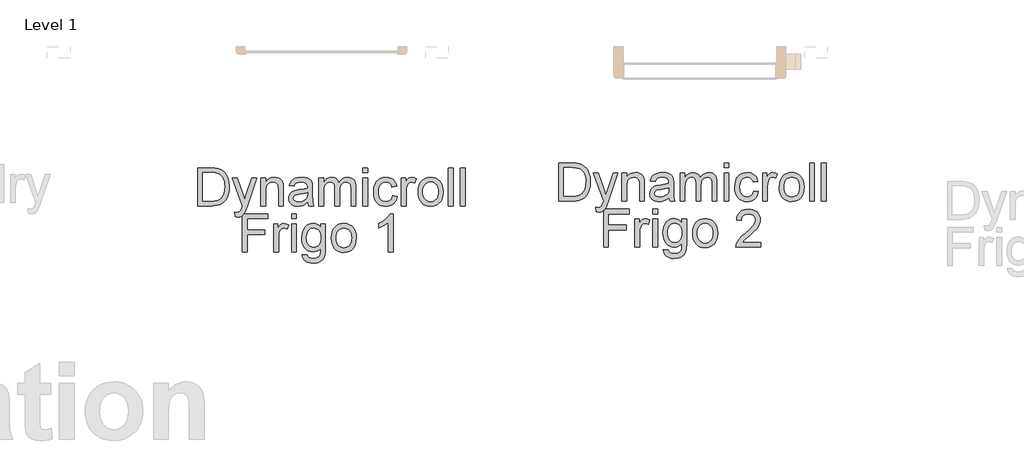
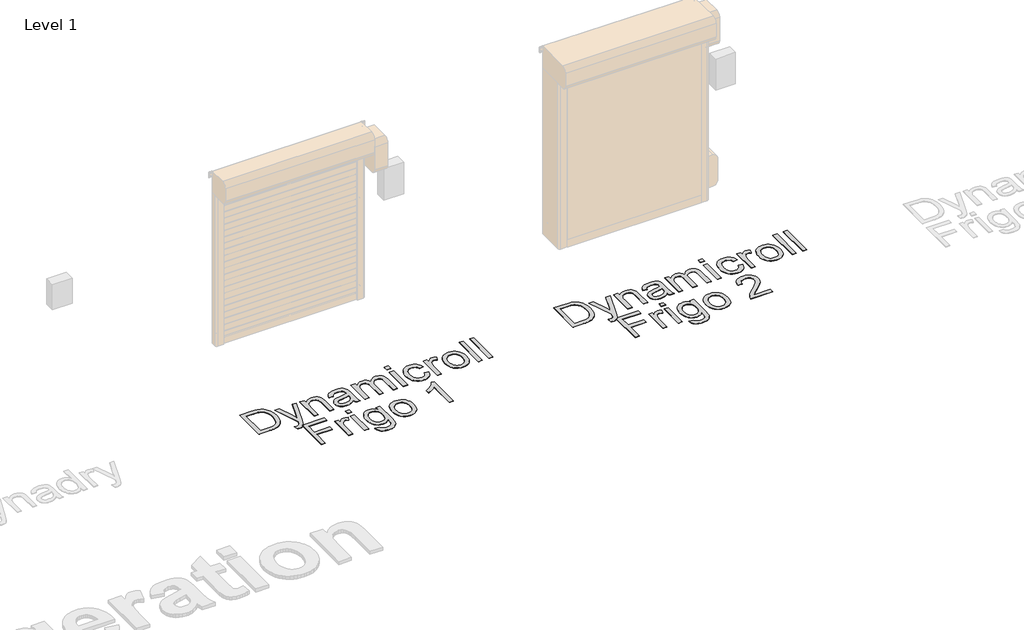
# One storey, part 4 of 17: 2 proxies.
"""IFC4 building model written with IfcOpenShell, lengths in millimetres."""

import ifcopenshell
import ifcopenshell.guid

model = None  # the IFC model being written
_history = None  # IfcOwnerHistory: only IFC2X3 demands one
_inside = {}  # id of a spatial element -> (the spatial element, [elements in it])
_under = {}  # id of a project, library or spatial element -> (it, [spatial elements below it])
_declared = {}  # id of a project -> (the project, [libraries it declares])
_typed = {}  # id of a type object -> (the type object, [elements of that type])
_made_of = {}  # id of a material, layer set ... -> (it, [elements and type objects made of it])


def new_model(schema):
    """Start an empty IFC model of exactly this schema.

    Asked for "IFC4X3", IfcOpenShell would pick the latest addendum, in which some entities
    have other attributes; the version numbers below select the first issue.
    IFC2X3 requires an IfcOwnerHistory on every rooted entity: one is made here for all.
    """
    global model, _history
    if schema == "IFC4X3":
        model = ifcopenshell.file(schema_version=(4, 3, 0, 0))
    else:
        model = ifcopenshell.file(schema=schema)
    _inside.clear()
    _under.clear()
    _declared.clear()
    _typed.clear()
    _made_of.clear()
    _history = None
    if model.schema == "IFC2X3":
        org = make("IfcOrganization", Name="unknown")
        user = make(
            "IfcPersonAndOrganization",
            ThePerson=make("IfcPerson", FamilyName="unknown"),
            TheOrganization=org,
        )
        app = make(
            "IfcApplication",
            ApplicationDeveloper=org,
            Version="unknown",
            ApplicationFullName="unknown",
            ApplicationIdentifier="unknown",
        )
        _history = make(
            "IfcOwnerHistory",
            OwningUser=user,
            OwningApplication=app,
            ChangeAction="ADDED",
            CreationDate=0,
        )
    return model


def make(cls, **values):
    """One entity of the class cls with the attributes given. An attribute that is None is left unset."""
    return model.create_entity(
        cls, **{name: value for name, value in values.items() if value is not None}
    )


def rooted(cls, **values):
    """An entity with a GlobalId (a new one), such as an element, a storey or a relation."""
    return make(cls, GlobalId=ifcopenshell.guid.new(), OwnerHistory=_history, **values)


def si_unit(unit_type, name, prefix=None):
    """IfcSIUnit, for example si_unit("LENGTHUNIT", "METRE", prefix="MILLI")."""
    return make("IfcSIUnit", UnitType=unit_type, Prefix=prefix, Name=name)


def assignment(units):
    """IfcUnitAssignment: the units of a project."""
    return None if units is None else make("IfcUnitAssignment", Units=units)


def point(xyz):
    """IfcCartesianPoint."""
    return None if xyz is None else make("IfcCartesianPoint", Coordinates=xyz)


def direction(xyz):
    """IfcDirection."""
    return None if xyz is None else make("IfcDirection", DirectionRatios=xyz)


def frame(location, z_axis=None, x_axis=None):
    """IfcAxis2Placement3D, a coordinate frame: its origin and axes. An axis left out is left unset."""
    return make(
        "IfcAxis2Placement3D",
        Location=point(location),
        Axis=direction(z_axis),
        RefDirection=direction(x_axis),
    )


def origin():
    """The frame at (0, 0, 0) with its axes left unset."""
    return frame((0.0, 0.0, 0.0))


def origin_with_axes():
    """The frame at (0, 0, 0) with the z axis (0, 0, 1) and the x axis (1, 0, 0) written out."""
    return frame((0.0, 0.0, 0.0), z_axis=(0.0, 0.0, 1.0), x_axis=(1.0, 0.0, 0.0))


def place(relative_to, where):
    """IfcLocalPlacement: puts the frame where relative to a parent placement (None: the world)."""
    return make(
        "IfcLocalPlacement", PlacementRelTo=relative_to, RelativePlacement=where
    )


def context(
    kind, dimensions, precision=None, world=None, true_north=None, identifier=None
):
    """IfcGeometricRepresentationContext, for example the 3D "Model" context."""
    return make(
        "IfcGeometricRepresentationContext",
        ContextIdentifier=identifier,
        ContextType=kind,
        CoordinateSpaceDimension=dimensions,
        Precision=precision,
        WorldCoordinateSystem=world,
        TrueNorth=true_north,
    )


def project(units=None, contexts=None):
    """IfcProject with its units and contexts."""
    return rooted(
        "IfcProject",
        Name="project",
        RepresentationContexts=contexts,
        UnitsInContext=assignment(units),
    )


def spatial(cls, under=None, at=None, **own):
    """A site, building, storey or space (cls), placed at a placement, below another one or the project."""
    s = rooted(cls, ObjectPlacement=at, **own)
    if under is not None:
        _under.setdefault(under.id(), (under, []))[1].append(s)
    return s


def polyline(points):
    """IfcPolyline through the points."""
    return make("IfcPolyline", Points=[point(p) for p in points])


def outline(outer, holes=None, kind="AREA"):
    """IfcArbitraryClosedProfileDef: a profile drawn as a closed curve; with holes, ...WithVoids."""
    if holes is None:
        return make("IfcArbitraryClosedProfileDef", ProfileType=kind, OuterCurve=outer)
    return make(
        "IfcArbitraryProfileDefWithVoids",
        ProfileType=kind,
        OuterCurve=outer,
        InnerCurves=holes,
    )


def extrude(swept, where, along, depth):
    """IfcExtrudedAreaSolid: the profile swept, set in the frame where, extruded along a direction by depth."""
    return make(
        "IfcExtrudedAreaSolid",
        SweptArea=swept,
        Position=where,
        ExtrudedDirection=direction(along),
        Depth=depth,
    )


def shape(context_of_items, identifier, shape_type, items):
    """IfcShapeRepresentation: the items that make up one representation, for example the "Body"."""
    return make(
        "IfcShapeRepresentation",
        ContextOfItems=context_of_items,
        RepresentationIdentifier=identifier,
        RepresentationType=shape_type,
        Items=items,
    )


def made_of(thing, what):
    """Note that an element or type object is made of a material, layer set ...; save() writes the relation."""
    if what is not None:
        _made_of.setdefault(what.id(), (what, []))[1].append(thing)
    return thing


def element(
    cls,
    number,
    at=None,
    inside=None,
    cuts=None,
    type_object=None,
    material=None,
    context=None,
    identifier="Body",
    shape_type=None,
    held_by="IfcProductDefinitionShape",
    body=None,
    shapes=None,
    **own,
):
    """One element of the class cls, such as IfcWall. Its Tag is "e" and its number.

    at: its placement. inside: the storey or other place that contains it. cuts: it is an
    opening in that element (IfcRelVoidsElement). A single representation is given by context,
    identifier, shape_type and body (its items); several are given by shapes. held_by: the class
    of the entity that holds the representations. save() writes the other relations.
    """
    e = rooted(cls, Tag="e%d" % number, ObjectPlacement=at, **own)
    if body is not None:
        shapes = [shape(context, identifier, shape_type, body)]
    if shapes is not None:
        e.Representation = make(held_by, Representations=shapes)
    if inside is not None:
        _inside.setdefault(inside.id(), (inside, []))[1].append(e)
    if cuts is not None:
        rooted(
            "IfcRelVoidsElement", RelatingBuildingElement=cuts, RelatedOpeningElement=e
        )
    if type_object is not None:
        _typed.setdefault(type_object.id(), (type_object, []))[1].append(e)
    return made_of(e, material)


def aggregate(whole, parts):
    """IfcRelAggregates: a whole, such as a stair, and the parts it consists of."""
    return rooted("IfcRelAggregates", RelatingObject=whole, RelatedObjects=parts)


def save(model, path):
    """Write the relations noted so far, then the file.

    IfcRelAggregates (storeys below a building ...), IfcRelContainedInSpatialStructure (elements
    in a storey), IfcRelDefinesByType, IfcRelAssociatesMaterial and IfcRelDeclares: one each for
    every whole, place, type object, material and project.
    """
    for whole, parts in _under.values():
        aggregate(whole, parts)
    for where, things in _inside.values():
        rooted(
            "IfcRelContainedInSpatialStructure",
            RelatedElements=things,
            RelatingStructure=where,
        )
    for kind, things in _typed.values():
        rooted("IfcRelDefinesByType", RelatedObjects=things, RelatingType=kind)
    for what, things in _made_of.values():
        rooted("IfcRelAssociatesMaterial", RelatedObjects=things, RelatingMaterial=what)
    for by, libraries in _declared.values():
        rooted("IfcRelDeclares", RelatingContext=by, RelatedDefinitions=libraries)
    model.write(path)


model = new_model("IFC4")

# Units and contexts
model_context = context("Model", 3, world=origin())
ifc_project = project(units=[si_unit("LENGTHUNIT", "METRE", prefix="MILLI")], contexts=[model_context])

# Site, building, storey
site = spatial("IfcSite", under=ifc_project)
building = spatial("IfcBuilding", under=site)
storey = spatial("IfcBuildingStorey", under=building, Name="Level 1", Elevation=0.0)

# Proxies
placement = place(None, origin())
element("IfcBuildingElementProxy", 1, Name="500mm", ObjectType="500mm", at=placement, inside=storey, context=model_context, shape_type="SweptSolid", body=[
    extrude(outline(polyline([(14861.4528433, 7547.2366873), (14861.4528433, 8049.5182381), (15034.725263, 8049.5182381), (15086.5046538, 8047.7094849), (15124.3658425, 8042.2832255), (15164.4036663, 8028.3343665), (15198.1874962, 8006.3534173), (15216.803858, 7988.3885132), (15232.9216879, 7968.0936898), (15246.5409859, 7945.4689471), (15257.6617521, 7920.5142851), (15272.4690024, 7864.5349081), (15277.4047525, 7801.075264), (15274.0631577, 7747.1652233), (15264.0383733, 7699.7237743), (15248.7712705, 7659.3333969), (15229.7027204, 7626.5765709), (15207.752428, 7600.7175324), (15183.8400984, 7581.0205172), (15156.3869045, 7566.4125363), (15123.8140195, 7555.8206005), (15086.0601297, 7549.3826656), (15043.0639215, 7547.2366873), (14861.4528433, 7547.2366873)]), holes=[polyline([(14924.2380371, 7610.0218811), (15035.3383996, 7610.0218811), (15081.2929922, 7612.2904868), (15116.1498112, 7619.0963037), (15142.4533739, 7630.0407931), (15162.7481973, 7644.725416), (15184.5605339, 7671.9026984), (15200.9466111, 7707.0814142), (15211.2013218, 7750.4148476), (15214.6195586, 7802.0562826), (15212.9449291, 7838.507257), (15207.9210406, 7870.4823337), (15199.5478931, 7897.9815129), (15187.8254866, 7921.0047944), (15173.704183, 7940.0733445), (15158.1343439, 7955.7083293), (15141.1159696, 7967.9097488), (15122.6490598, 7976.677603), (15086.5353106, 7984.2191839), (15033.621617, 7986.7330442), (14924.2380371, 7986.7330442), (14924.2380371, 7610.0218811)])]), origin_with_axes(), (0.0, 0.0, 1.0), 5.0),
    extrude(outline(polyline([(15355.8862448, 7405.9700012), (15348.0380955, 7466.4252757), (15379.9212018, 7460.9070458), (15396.6904894, 7462.6391568), (15409.7196434, 7467.83549), (15419.8670551, 7476.1281633), (15427.9911158, 7487.1492948), (15445.1589423, 7533.3797988), (15450.0640355, 7548.585588), (15316.6454986, 7916.0997011), (15382.8642578, 7916.0997011), (15453.6202282, 7711.3120572), (15478.2683218, 7629.3969996), (15502.9164155, 7701.7471253), (15575.6344232, 7916.0997011), (15641.362673, 7916.0997011), (15512.9718567, 7538.4075194), (15479.6172225, 7456.4924618), (15462.5413665, 7430.3421833), (15443.196905, 7412.2239951), (15420.7254464, 7401.6473877), (15394.2685996, 7398.1218519), (15376.0890977, 7400.0838892), (15355.8862448, 7405.9700012)])), origin_with_axes(), (0.0, 0.0, 1.0), 5.0),
    extrude(outline(polyline([(15693.3566617, 7547.2366873), (15693.3566617, 7916.0997011), (15756.1418555, 7916.0997011), (15756.1418555, 7864.5962218), (15777.9541922, 7890.5625593), (15804.1504559, 7909.1099432), (15834.7306467, 7920.2383736), (15869.6947647, 7923.9478504), (15900.6428375, 7920.9588092), (15928.9850796, 7911.9916855), (15952.6214978, 7898.1654539), (15969.4520991, 7880.5990886), (15980.8717693, 7859.338575), (15988.2753945, 7834.4298982), (15991.5863324, 7773.729369), (15991.5863324, 7547.2366873), (15928.8011386, 7547.2366873), (15928.8011386, 7765.2680831), (15926.9923855, 7797.7336692), (15921.566126, 7820.8182644), (15911.5566701, 7837.3576258), (15895.9983274, 7850.1875103), (15876.0560575, 7858.41887), (15852.8948203, 7861.1626565), (15833.8301023, 7859.6221507), (15816.1219492, 7855.0006331), (15799.7703609, 7847.2981038), (15784.7753375, 7836.5145628), (15772.2481891, 7821.4237368), (15763.300226, 7800.7993525), (15757.9314481, 7774.6414098), (15756.1418555, 7742.9499087), (15756.1418555, 7547.2366873), (15693.3566617, 7547.2366873)])), origin_with_axes(), (0.0, 0.0, 1.0), 5.0),
    extrude(outline(polyline([(16313.3604509, 7594.3255827), (16283.3627399, 7568.6044999), (16252.4759807, 7551.7738986), (16219.9950662, 7542.4848782), (16185.2148892, 7539.3885381), (16157.2596897, 7541.2509407), (16132.7457197, 7546.8381485), (16111.6729791, 7556.1501615), (16094.0414681, 7569.1869797), (16080.1194338, 7585.1208686), (16070.1751237, 7603.1240937), (16064.2085375, 7623.1966551), (16062.2196755, 7645.3385527), (16065.2240451, 7671.3662038), (16074.237154, 7695.002622), (16088.1400278, 7715.2361318), (16105.8136919, 7731.0550576), (16126.5836963, 7743.0112224), (16149.7755904, 7751.6564493), (16204.0994983, 7761.0987538), (16268.2949065, 7771.0315677), (16312.9925689, 7782.6811642), (16313.3604509, 7796.66068), (16309.0378374, 7824.6810253), (16296.0699971, 7843.0138114), (16282.9948579, 7850.9539312), (16267.0686332, 7856.6254452), (16226.6629274, 7861.1626565), (16189.2615912, 7858.1429585), (16163.1419695, 7849.0838643), (16145.3303496, 7832.3299052), (16132.8530186, 7806.2256119), (16070.0678247, 7814.0737611), (16080.9663289, 7848.409414), (16097.2297787, 7875.387427), (16120.3756876, 7896.0194756), (16151.9215687, 7911.3172352), (16190.5031929, 7920.7901966), (16234.7563313, 7923.9478504), (16277.2007164, 7921.1580786), (16310.8465906, 7912.7887632), (16336.2151198, 7900.2041333), (16353.8274704, 7884.7684179), (16365.5077237, 7865.6845394), (16373.0799614, 7842.1554201), (16376.1456447, 7787.2183755), (16376.1456447, 7709.1047652), (16379.3339554, 7600.0277536), (16384.0551076, 7573.065069), (16391.8419432, 7547.2366873), (16329.0567493, 7547.2366873), (16319.0013081, 7569.0643524), (16313.3604509, 7594.3255827)]), holes=[polyline([(16313.3604509, 7719.8959704), (16271.1766488, 7709.4419903), (16212.0702749, 7700.6434793), (16158.0529353, 7690.4654108), (16143.9967774, 7683.5063097), (16133.5887826, 7673.910721), (16127.1508477, 7662.4144086), (16125.0048694, 7649.7531366), (16129.6800364, 7631.0831254), (16143.7055374, 7615.7853657), (16166.7748042, 7605.5766404), (16198.5812684, 7602.1737319), (16232.3037846, 7605.929194), (16262.1022262, 7617.1955801), (16286.2598106, 7633.7962551), (16303.059755, 7653.5545839), (16310.5093654, 7673.910721), (16312.9925689, 7702.1150073), (16313.3604509, 7719.8959704)])]), origin_with_axes(), (0.0, 0.0, 1.0), 5.0),
    extrude(outline(polyline([(16462.4752863, 7547.2366873), (16462.4752863, 7916.0997011), (16525.2604801, 7916.0997011), (16525.2604801, 7855.3991719), (16544.1450892, 7883.2815615), (16568.4253009, 7905.1245549), (16597.2733807, 7919.2420265), (16629.8615941, 7923.9478504), (16664.7797268, 7919.150056), (16692.7694152, 7904.756673), (16713.6773753, 7881.718063), (16727.3503228, 7850.984588), (16750.2356486, 7882.9060153), (16776.3399418, 7905.7070348), (16805.6632025, 7919.3876465), (16838.2054307, 7923.9478504), (16863.3402016, 7922.0509588), (16885.401625, 7916.3602842), (16904.3897009, 7906.8758265), (16920.3044293, 7893.5975858), (16932.8852271, 7876.3722778), (16941.8715112, 7855.0466184), (16947.2632817, 7829.6206075), (16949.0605386, 7800.0942453), (16949.0605386, 7547.2366873), (16886.2753447, 7547.2366873), (16886.2753447, 7773.1162323), (16884.8191451, 7804.4321872), (16880.4505465, 7825.5394167), (16872.2651721, 7839.9941134), (16859.3586454, 7851.35247), (16842.7579704, 7858.7101099), (16823.4901509, 7861.1626565), (16805.6976915, 7859.5914938), (16789.4763947, 7854.8780058), (16774.8262607, 7847.0221923), (16761.7472893, 7836.0240535), (16750.9905731, 7821.5616926), (16743.3072043, 7803.3132128), (16738.6971831, 7781.2786141), (16737.1605093, 7755.4578966), (16737.1605093, 7547.2366873), (16674.3753155, 7547.2366873), (16674.3753155, 7780.1059903), (16670.7424808, 7815.6066028), (16659.8439767, 7840.9291468), (16651.4171797, 7849.7813073), (16640.6681277, 7856.1042791), (16612.2032583, 7861.1626565), (16588.0150171, 7857.7904049), (16565.7274996, 7847.67365), (16547.3333998, 7831.0576466), (16534.825412, 7808.1876492), (16527.6517131, 7776.4578271), (16525.2604801, 7733.2623495), (16525.2604801, 7547.2366873), (16462.4752863, 7547.2366873)])), origin_with_axes(), (0.0, 0.0, 1.0), 5.0),
    extrude(outline(polyline([(17043.2383293, 7986.7330442), (17043.2383293, 8049.5182381), (17106.0235232, 8049.5182381), (17106.0235232, 7986.7330442), (17043.2383293, 7986.7330442)])), origin_with_axes(), (0.0, 0.0, 1.0), 5.0),
    extrude(outline(polyline([(17043.2383293, 7547.2366873), (17043.2383293, 7916.0997011), (17106.0235232, 7916.0997011), (17106.0235232, 7547.2366873), (17043.2383293, 7547.2366873)])), origin_with_axes(), (0.0, 0.0, 1.0), 5.0),
    extrude(outline(polyline([(17435.6457908, 7680.6552242), (17498.4309847, 7672.807075), (17491.6021751, 7643.1810781), (17480.9259331, 7616.9656538), (17466.4022585, 7594.1608022), (17448.0311513, 7574.7665233), (17426.5866967, 7559.2886548), (17402.8429796, 7548.2330344), (17376.8, 7541.5996621), (17348.457758, 7539.3885381), (17313.2445533, 7542.4733819), (17281.6718474, 7551.7279133), (17253.7396405, 7567.1521324), (17229.4479325, 7588.7460391), (17209.7854063, 7616.1034304), (17195.7407447, 7648.8181032), (17187.3139478, 7686.8900576), (17184.5050155, 7730.3192936), (17189.3028098, 7786.1913716), (17203.6961929, 7834.6138392), (17214.5487117, 7855.5639524), (17227.9150909, 7873.7166296), (17243.7953304, 7889.0718708), (17262.1894301, 7901.629676), (17303.1929442, 7918.3683068), (17347.5993667, 7923.9478504), (17375.4549315, 7922.0317983), (17400.651016, 7916.2836421), (17423.1876204, 7906.7033818), (17443.0647444, 7893.2910174), (17459.945163, 7876.3531172), (17473.4916511, 7856.1962496), (17483.7042086, 7832.8204145), (17490.5828355, 7806.2256119), (17427.7976416, 7798.3774627), (17416.4086282, 7825.7693429), (17398.6736503, 7845.4050444), (17375.5737267, 7857.2232535), (17348.089876, 7861.1626565), (17326.7565524, 7859.2236118), (17307.5155576, 7853.4064778), (17290.3668917, 7843.7112544), (17275.3105546, 7830.1379416), (17263.0516535, 7812.3723069), (17254.2952956, 7790.1001178), (17249.0414809, 7763.3213742), (17247.2902093, 7732.0360762), (17249.0031598, 7700.2794294), (17254.1420115, 7673.1902854), (17262.7067642, 7650.7686442), (17274.6974179, 7633.0145058), (17289.4548509, 7619.5216673), (17306.3199411, 7609.8839254), (17325.2926886, 7604.1012803), (17346.3730933, 7602.1737319), (17378.8846647, 7606.9868547), (17405.5407809, 7621.426223), (17416.3204898, 7632.3477197), (17424.9312277, 7645.8597188), (17435.6457908, 7680.6552242)])), origin_with_axes(), (0.0, 0.0, 1.0), 5.0),
    extrude(outline(polyline([(17553.3680293, 7547.2366873), (17553.3680293, 7916.0997011), (17608.3050739, 7916.0997011), (17608.3050739, 7861.5305385), (17628.5998973, 7893.1683901), (17647.3005654, 7911.8077445), (17666.0625472, 7920.9128239), (17686.5413115, 7923.9478504), (17717.8112811, 7919.1040708), (17749.5717601, 7904.572732), (17728.6024863, 7848.2867867), (17706.5295666, 7857.9436891), (17684.4566469, 7861.1626565), (17665.7099936, 7858.0663164), (17648.9560344, 7848.777296), (17635.4210426, 7834.0007025), (17626.3312917, 7814.4416431), (17618.6977403, 7779.3702263), (17616.1532231, 7741.1104988), (17616.1532231, 7547.2366873), (17553.3680293, 7547.2366873)])), origin_with_axes(), (0.0, 0.0, 1.0), 5.0),
    extrude(outline(polyline([(17773.1162077, 7731.6681942), (17776.511452, 7779.4392041), (17786.6971847, 7820.6036666), (17803.673406, 7855.1615815), (17827.4401157, 7883.1129489), (17851.3677738, 7900.9782183), (17877.7786354, 7913.739125), (17906.6727004, 7921.395669), (17938.0499689, 7923.9478504), (17972.688358, 7920.8400139), (18004.008145, 7911.5165046), (18032.0093297, 7895.9773224), (18056.6919124, 7874.2224674), (18076.8372837, 7846.9877034), (18091.2268347, 7815.0087945), (18099.8605652, 7778.2857408), (18102.7384754, 7736.8185422), (18097.6494412, 7673.3895548), (18091.2881483, 7647.3542395), (18082.3823384, 7625.105043), (18071.0431423, 7605.8870408), (18057.3816911, 7588.9453085), (18041.3979848, 7574.2798461), (18023.0920235, 7561.8906534), (17982.3644209, 7545.0140669), (17938.0499689, 7539.3885381), (17902.9057421, 7542.4848782), (17871.2947152, 7551.7738986), (17843.2168883, 7567.2555992), (17818.6722615, 7588.9299801), (17798.741488, 7616.4291592), (17784.5052212, 7649.3852546), (17775.9634611, 7687.7982663), (17773.1162077, 7731.6681942)]), holes=[polyline([(17835.9014016, 7731.7908216), (17837.7178189, 7701.3370901), (17843.167071, 7674.9683817), (17852.2491578, 7652.6846963), (17864.9640792, 7634.4860338), (17880.4304514, 7620.3494017), (17897.7668904, 7610.2518074), (17916.9733963, 7604.1932508), (17938.0499689, 7602.1737319), (17959.0192426, 7604.2047471), (17978.1491064, 7610.2977926), (17995.4395602, 7620.4528686), (18010.890604, 7634.6699748), (18023.6055254, 7653.0487462), (18032.6876122, 7675.6888173), (18038.1368642, 7702.5901882), (18039.9532816, 7733.7528589), (18038.1253679, 7763.2409), (18032.6416269, 7788.9198297), (18023.5020586, 7810.7896479), (18010.706663, 7828.8503546), (17995.1981376, 7842.9869867), (17977.9191801, 7853.084581), (17958.8697906, 7859.1431377), (17938.0499689, 7861.1626565), (17916.9733963, 7859.1508019), (17897.7668904, 7853.1152379), (17880.4304514, 7843.0559646), (17864.9640792, 7828.9729819), (17852.2491578, 7810.827969), (17843.167071, 7788.5826046), (17837.7178189, 7762.2368888), (17835.9014016, 7731.7908216)])]), origin_with_axes(), (0.0, 0.0, 1.0), 5.0),
    extrude(outline(polyline([(18173.3718185, 7547.2366873), (18173.3718185, 8049.5182381), (18236.1570123, 8049.5182381), (18236.1570123, 7547.2366873), (18173.3718185, 7547.2366873)])), origin_with_axes(), (0.0, 0.0, 1.0), 5.0),
    extrude(outline(polyline([(18330.3348031, 7547.2366873), (18330.3348031, 8049.5182381), (18393.119997, 8049.5182381), (18393.119997, 7547.2366873), (18330.3348031, 7547.2366873)])), origin_with_axes(), (0.0, 0.0, 1.0), 5.0),
    extrude(outline(polyline([(15450.0640355, 6937.3625981), (15450.0640355, 7439.6441488), (15787.5344524, 7439.6441488), (15787.5344524, 7376.858955), (15512.8492294, 7376.858955), (15512.8492294, 7227.7441196), (15748.2937063, 7227.7441196), (15748.2937063, 7164.9589258), (15512.8492294, 7164.9589258), (15512.8492294, 6937.3625981), (15450.0640355, 6937.3625981)])), origin_with_axes(), (0.0, 0.0, 1.0), 5.0),
    extrude(outline(polyline([(15866.0159448, 6937.3625981), (15866.0159448, 7306.2256119), (15920.9529894, 7306.2256119), (15920.9529894, 7251.6564493), (15941.2478128, 7283.2943009), (15959.9484809, 7301.9336553), (15978.7104626, 7311.0387347), (15999.189227, 7314.0737611), (16030.4591966, 7309.2299815), (16062.2196755, 7294.6986427), (16041.2504018, 7238.4126975), (16019.1774821, 7248.0695998), (15997.1045624, 7251.2885673), (15978.357909, 7248.1922272), (15961.6039498, 7238.9032068), (15948.0689581, 7224.1266133), (15938.9792071, 7204.5675539), (15931.3456557, 7169.496137), (15928.8011386, 7131.2364095), (15928.8011386, 6937.3625981), (15866.0159448, 6937.3625981)])), origin_with_axes(), (0.0, 0.0, 1.0), 5.0),
    extrude(outline(polyline([(16101.4604217, 7376.858955), (16101.4604217, 7439.6441488), (16164.2456155, 7439.6441488), (16164.2456155, 7376.858955), (16101.4604217, 7376.858955)])), origin_with_axes(), (0.0, 0.0, 1.0), 5.0),
    extrude(outline(polyline([(16101.4604217, 6937.3625981), (16101.4604217, 7306.2256119), (16164.2456155, 7306.2256119), (16164.2456155, 6937.3625981), (16101.4604217, 6937.3625981)])), origin_with_axes(), (0.0, 0.0, 1.0), 5.0),
    extrude(outline(polyline([(16242.7271078, 6905.9700012), (16305.5123017, 6898.1218519), (16312.4407459, 6878.5014789), (16325.8684387, 6865.0124724), (16352.2639719, 6854.5278355), (16386.8142226, 6851.0329565), (16423.6637358, 6854.987688), (16451.0709444, 6866.8518823), (16470.0781808, 6885.8591188), (16481.7277773, 6911.2429764), (16485.1306858, 6938.2516462), (16486.019734, 6984.4514935), (16465.1271023, 6963.8501017), (16441.8125809, 6949.1348219), (16416.0761696, 6940.305654), (16387.9178686, 6937.3625981), (16353.4940773, 6940.7884992), (16323.1859658, 6951.0662024), (16296.9935342, 6968.1957078), (16274.9167824, 6992.1770154), (16257.4002345, 7020.9484531), (16244.8884145, 7052.4483489), (16237.3813226, 7086.6767029), (16234.8789586, 7123.633515), (16239.3701846, 7174.3245882), (16252.8438627, 7220.9383027), (16274.8248119, 7260.4396319), (16288.8273203, 7276.3850172), (16304.8378513, 7289.7935495), (16322.5996539, 7300.4161421), (16341.8559771, 7308.0037082), (16362.6068209, 7312.5562479), (16384.8521853, 7314.0737611), (16414.213767, 7310.6401959), (16440.862219, 7300.3395), (16464.7975414, 7283.1716735), (16486.019734, 7259.1367165), (16486.019734, 7306.2256119), (16548.8049278, 7306.2256119), (16548.8049278, 6987.7624314), (16544.5129712, 6914.2320176), (16539.1480254, 6886.8822906), (16531.6371014, 6865.80955), (16509.4568827, 6833.6965175), (16477.2518797, 6809.0944091), (16457.5663609, 6799.9740013), (16435.7271995, 6793.4594243), (16385.5879493, 6788.2477627), (16354.8276495, 6790.0833406), (16327.1713541, 6795.5900742), (16302.619063, 6804.7679635), (16281.1707763, 6817.6170086), (16263.8458336, 6834.1525379), (16251.6635746, 6854.3898798), (16244.6239994, 6878.3290342), (16242.7271078, 6905.9700012)]), holes=[polyline([(16297.6641524, 7127.9254716), (16299.3387819, 7096.8815961), (16304.3626704, 7070.3366109), (16312.7358179, 7048.2905159), (16324.4582244, 7030.7433112), (16338.7098196, 7017.3577715), (16354.6705333, 7007.7966717), (16372.3403653, 7002.0600119), (16391.7193159, 7000.1477919), (16410.9066612, 7002.0485156), (16428.492187, 7007.7506865), (16444.4758932, 7017.2543047), (16458.85778, 7030.5593702), (16470.7411348, 7047.9341303), (16479.2292455, 7069.6468322), (16484.3221118, 7095.697476), (16486.019734, 7126.0860616), (16484.2722945, 7155.2062208), (16479.029976, 7180.5172685), (16470.2927787, 7202.0192047), (16458.0607023, 7219.7120294), (16443.3684151, 7233.5267647), (16427.2505852, 7243.3944328), (16409.7072126, 7249.3150337), (16390.7382972, 7251.2885673), (16372.0874465, 7249.3456905), (16354.8851311, 7243.5170601), (16339.1313511, 7233.8026762), (16324.8261064, 7220.2025387), (16312.9427515, 7202.7779613), (16304.4546409, 7181.5902576), (16299.3617745, 7156.6394277), (16297.6641524, 7127.9254716)])]), origin_with_axes(), (0.0, 0.0, 1.0), 5.0),
    extrude(outline(polyline([(16627.2864201, 7121.794105), (16630.6816644, 7169.5651149), (16640.8673971, 7210.7295773), (16657.8436183, 7245.2874923), (16681.6103281, 7273.2388597), (16705.5379862, 7291.1041291), (16731.9488477, 7303.8650358), (16760.8429128, 7311.5215798), (16792.2201813, 7314.0737611), (16826.8585704, 7310.9659247), (16858.1783573, 7301.6424154), (16886.1795421, 7286.1032332), (16910.8621247, 7264.3483781), (16931.0074961, 7237.1136142), (16945.397047, 7205.1347053), (16954.0307776, 7168.4116516), (16956.9086878, 7126.9444529), (16951.8196535, 7063.5154656), (16945.4583607, 7037.4801502), (16936.5525507, 7015.2309537), (16925.2133546, 6996.0129516), (16911.5519035, 6979.0712193), (16895.5681972, 6964.4057568), (16877.2622358, 6952.0165642), (16836.5346333, 6935.1399777), (16792.2201813, 6929.5144488), (16757.0759544, 6932.610789), (16725.4649276, 6941.8998094), (16697.3871007, 6957.38151), (16672.8424738, 6979.0558909), (16652.9117003, 7006.55507), (16638.6754335, 7039.5111654), (16630.1336735, 7077.9241771), (16627.2864201, 7121.794105)]), holes=[polyline([(16690.0716139, 7121.9167323), (16691.8880313, 7091.4630009), (16697.3372834, 7065.0942925), (16706.4193701, 7042.8106071), (16719.1342916, 7024.6119446), (16734.6006638, 7010.4753125), (16751.9371028, 7000.3777182), (16771.1436086, 6994.3191616), (16792.2201813, 6992.2996427), (16813.189455, 6994.3306579), (16832.3193187, 7000.4237034), (16849.6097725, 7010.5787793), (16865.0608163, 7024.7958856), (16877.7757378, 7043.1746569), (16886.8578245, 7065.8147281), (16892.3070766, 7092.716099), (16894.1234939, 7123.8787696), (16892.2955803, 7153.3668108), (16886.8118393, 7179.0457405), (16877.672271, 7200.9155587), (16864.8768753, 7218.9762654), (16849.36835, 7233.1128975), (16832.0893925, 7243.2104918), (16813.0400029, 7249.2690484), (16792.2201813, 7251.2885673), (16771.1436086, 7249.2767126), (16751.9371028, 7243.2411487), (16734.6006638, 7233.1818753), (16719.1342916, 7219.0988927), (16706.4193701, 7200.9538797), (16697.3372834, 7178.7085153), (16691.8880313, 7152.3627995), (16690.0716139, 7121.9167323)])]), origin_with_axes(), (0.0, 0.0, 1.0), 5.0),
    extrude(outline(polyline([(17443.4939401, 6937.3625981), (17380.7087462, 6937.3625981), (17380.7087462, 7328.7890409), (17354.4971541, 7307.589841), (17321.2344903, 7286.4212978), (17255.1383585, 7254.7221326), (17255.1383585, 7314.0737611), (17304.4498743, 7340.89849), (17347.170171, 7372.812253), (17380.846702, 7406.7493671), (17403.0269206, 7439.6441488), (17443.4939401, 7439.6441488), (17443.4939401, 6937.3625981)])), origin_with_axes(), (0.0, 0.0, 1.0), 5.0),
])
element("IfcBuildingElementProxy", 2, Name="500mm", ObjectType="500mm", at=placement, inside=storey, context=model_context, shape_type="SweptSolid", body=[
    extrude(outline(polyline([(19635.3862268, 7610.4555859), (19635.3862268, 8112.7371367), (19808.6586466, 8112.7371367), (19860.4380374, 8110.9283835), (19898.299226, 8105.5021241), (19938.3370499, 8091.5532651), (19972.1208797, 8069.5723159), (19990.7372415, 8051.6074118), (20006.8550715, 8031.3125884), (20020.4743695, 8008.6878457), (20031.5951356, 7983.7331837), (20046.4023859, 7927.7538068), (20051.338136, 7864.2941626), (20047.9965413, 7810.3841219), (20037.9717569, 7762.9426729), (20022.7046541, 7722.5522955), (20003.636104, 7689.7954695), (19981.6858116, 7663.936431), (19957.7734819, 7644.2394158), (19930.320288, 7629.6314349), (19897.7474031, 7619.0394991), (19859.9935133, 7612.6015642), (19816.9973051, 7610.4555859), (19635.3862268, 7610.4555859)]), holes=[polyline([(19698.1714207, 7673.2407798), (19809.2717832, 7673.2407798), (19855.2263758, 7675.5093854), (19890.0831948, 7682.3152023), (19916.3867575, 7693.2596917), (19936.6815809, 7707.9443146), (19958.4939175, 7735.121597), (19974.8799947, 7770.3003128), (19985.1347053, 7813.6337462), (19988.5529422, 7865.2751812), (19986.8783127, 7901.7261556), (19981.8544242, 7933.7012323), (19973.4812767, 7961.2004115), (19961.7588702, 7984.223693), (19947.6375665, 8003.2922431), (19932.0677275, 8018.9272279), (19915.0493531, 8031.1286474), (19896.5824434, 8039.8965016), (19860.4686942, 8047.4380825), (19807.5550006, 8049.9519428), (19698.1714207, 8049.9519428), (19698.1714207, 7673.2407798)])]), origin_with_axes(), (0.0, 0.0, 1.0), 5.0),
    extrude(outline(polyline([(20129.8196283, 7469.1888998), (20121.9714791, 7529.6441743), (20153.8545854, 7524.1259444), (20170.623873, 7525.8580554), (20183.653027, 7531.0543886), (20193.8004387, 7539.3470619), (20201.9244994, 7550.3681934), (20219.0923258, 7596.5986974), (20223.9974191, 7611.8044866), (20090.5788822, 7979.3185997), (20156.7976413, 7979.3185997), (20227.5536117, 7774.5309558), (20252.2017054, 7692.6158982), (20276.8497991, 7764.9660239), (20349.5678068, 7979.3185997), (20415.2960566, 7979.3185997), (20286.9052403, 7601.626418), (20253.5506061, 7519.7113604), (20236.4747501, 7493.5610819), (20217.1302885, 7475.4428937), (20194.65883, 7464.8662863), (20168.2019832, 7461.3407505), (20150.0224812, 7463.3027878), (20129.8196283, 7469.1888998)])), origin_with_axes(), (0.0, 0.0, 1.0), 5.0),
    extrude(outline(polyline([(20467.2900453, 7610.4555859), (20467.2900453, 7979.3185997), (20530.0752391, 7979.3185997), (20530.0752391, 7927.8151204), (20551.8875757, 7953.7814579), (20578.0838395, 7972.3288418), (20608.6640303, 7983.4572722), (20643.6281483, 7987.166749), (20674.5762211, 7984.1777078), (20702.9184632, 7975.2105841), (20726.5548814, 7961.3843525), (20743.3854826, 7943.8179872), (20754.8051529, 7922.5574736), (20762.2087781, 7897.6487968), (20765.519716, 7836.9482676), (20765.519716, 7610.4555859), (20702.7345222, 7610.4555859), (20702.7345222, 7828.4869817), (20700.925769, 7860.9525678), (20695.4995096, 7884.037163), (20685.4900536, 7900.5765244), (20669.9317109, 7913.4064089), (20649.9894411, 7921.6377686), (20626.8282038, 7924.3815551), (20607.7634859, 7922.8410493), (20590.0553327, 7918.2195317), (20573.7037445, 7910.5170024), (20558.7087211, 7899.7334615), (20546.1815727, 7884.6426354), (20537.2336096, 7864.0182511), (20531.8648317, 7837.8603084), (20530.0752391, 7806.1688073), (20530.0752391, 7610.4555859), (20467.2900453, 7610.4555859)])), origin_with_axes(), (0.0, 0.0, 1.0), 5.0),
    extrude(outline(polyline([(21087.2938345, 7657.5444813), (21057.2961234, 7631.8233985), (21026.4093643, 7614.9927972), (20993.9284498, 7605.7037768), (20959.1482728, 7602.6074367), (20931.1930733, 7604.4698393), (20906.6791032, 7610.0570471), (20885.6063627, 7619.3690601), (20867.9748517, 7632.4058783), (20854.0528174, 7648.3397672), (20844.1085072, 7666.3429923), (20838.1419211, 7686.4155537), (20836.1530591, 7708.5574513), (20839.1574287, 7734.5851025), (20848.1705376, 7758.2215206), (20862.0734113, 7778.4550304), (20879.7470755, 7794.2739562), (20900.5170798, 7806.230121), (20923.7089739, 7814.8753479), (20978.0328819, 7824.3176524), (21042.2282901, 7834.2504663), (21086.9259525, 7845.9000628), (21087.2938345, 7859.8795786), (21082.971221, 7887.8999239), (21070.0033807, 7906.23271), (21056.9282414, 7914.1728298), (21041.0020167, 7919.8443439), (21000.5963109, 7924.3815551), (20963.1949748, 7921.3618571), (20937.0753531, 7912.302763), (20919.2637332, 7895.5488038), (20906.7864022, 7869.4445105), (20844.0012083, 7877.2926597), (20854.8997124, 7911.6283126), (20871.1631623, 7938.6063256), (20894.3090712, 7959.2383742), (20925.8549522, 7974.5361338), (20964.4365765, 7984.0090952), (21008.6897148, 7987.166749), (21051.1341, 7984.3769772), (21084.7799742, 7976.0076618), (21110.1485034, 7963.4230319), (21127.7608539, 7947.9873165), (21139.4411073, 7928.903438), (21147.013345, 7905.3743187), (21150.0790283, 7850.4372741), (21150.0790283, 7772.3236638), (21153.2673389, 7663.2466522), (21157.9884912, 7636.2839677), (21165.7753268, 7610.4555859), (21102.9901329, 7610.4555859), (21092.9346917, 7632.283251), (21087.2938345, 7657.5444813)]), holes=[polyline([(21087.2938345, 7783.114869), (21045.1100323, 7772.660889), (20986.0036585, 7763.8623779), (20931.9863188, 7753.6843094), (20917.9301609, 7746.7252083), (20907.5221662, 7737.1296196), (20901.0842312, 7725.6333072), (20898.9382529, 7712.9720352), (20903.61342, 7694.302024), (20917.638921, 7679.0042643), (20940.7081878, 7668.795539), (20972.514652, 7665.3926305), (21006.2371682, 7669.1480926), (21036.0356098, 7680.4144787), (21060.1931941, 7697.0151537), (21076.9931386, 7716.7734825), (21084.442749, 7737.1296196), (21086.9259525, 7765.3339059), (21087.2938345, 7783.114869)])]), origin_with_axes(), (0.0, 0.0, 1.0), 5.0),
    extrude(outline(polyline([(21236.4086698, 7610.4555859), (21236.4086698, 7979.3185997), (21299.1938637, 7979.3185997), (21299.1938637, 7918.6180705), (21318.0784728, 7946.5004601), (21342.3586844, 7968.3434536), (21371.2067642, 7982.4609251), (21403.7949776, 7987.166749), (21438.7131104, 7982.3689546), (21466.7027988, 7967.9755716), (21487.6107589, 7944.9369616), (21501.2837064, 7914.2034866), (21524.1690321, 7946.1249139), (21550.2733254, 7968.9259334), (21579.5965861, 7982.6065451), (21612.1388142, 7987.166749), (21637.2735851, 7985.2698574), (21659.3350085, 7979.5791828), (21678.3230844, 7970.0947251), (21694.2378128, 7956.8164844), (21706.8186107, 7939.5911764), (21715.8048948, 7918.265517), (21721.1966653, 7892.8395061), (21722.9939221, 7863.3131439), (21722.9939221, 7610.4555859), (21660.2087283, 7610.4555859), (21660.2087283, 7836.335131), (21658.7525287, 7867.6510858), (21654.38393, 7888.7583153), (21646.1985556, 7903.213012), (21633.292029, 7914.5713686), (21616.6913539, 7921.9290085), (21597.4235344, 7924.3815551), (21579.631075, 7922.8103924), (21563.4097783, 7918.0969044), (21548.7596443, 7910.2410909), (21535.6806729, 7899.2429521), (21524.9239567, 7884.7805912), (21517.2405879, 7866.5321114), (21512.6305667, 7844.4975127), (21511.0938929, 7818.6767952), (21511.0938929, 7610.4555859), (21448.3086991, 7610.4555859), (21448.3086991, 7843.3248889), (21444.6758644, 7878.8255014), (21433.7773603, 7904.1480454), (21425.3505633, 7913.0002059), (21414.6015113, 7919.3231777), (21386.1366419, 7924.3815551), (21361.9484007, 7921.0093035), (21339.6608832, 7910.8925486), (21321.2667834, 7894.2765452), (21308.7587956, 7871.4065478), (21301.5850967, 7839.6767257), (21299.1938637, 7796.4812481), (21299.1938637, 7610.4555859), (21236.4086698, 7610.4555859)])), origin_with_axes(), (0.0, 0.0, 1.0), 5.0),
    extrude(outline(polyline([(21817.1717129, 8049.9519428), (21817.1717129, 8112.7371367), (21879.9569067, 8112.7371367), (21879.9569067, 8049.9519428), (21817.1717129, 8049.9519428)])), origin_with_axes(), (0.0, 0.0, 1.0), 5.0),
    extrude(outline(polyline([(21817.1717129, 7610.4555859), (21817.1717129, 7979.3185997), (21879.9569067, 7979.3185997), (21879.9569067, 7610.4555859), (21817.1717129, 7610.4555859)])), origin_with_axes(), (0.0, 0.0, 1.0), 5.0),
    extrude(outline(polyline([(22209.5791744, 7743.8741228), (22272.3643683, 7736.0259736), (22265.5355587, 7706.3999767), (22254.8593167, 7680.1845524), (22240.3356421, 7657.3797008), (22221.9645349, 7637.9854219), (22200.5200803, 7622.5075534), (22176.7763632, 7611.451933), (22150.7333836, 7604.8185608), (22122.3911416, 7602.6074367), (22087.1779368, 7605.6922805), (22055.605231, 7614.9468119), (22027.6730241, 7630.371031), (22003.3813161, 7651.9649377), (21983.7187899, 7679.322329), (21969.6741283, 7712.0370018), (21961.2473314, 7750.1089562), (21958.438399, 7793.5381922), (21963.2361934, 7849.4102702), (21977.6295765, 7897.8327378), (21988.4820953, 7918.782851), (22001.8484745, 7936.9355282), (22017.7287139, 7952.2907694), (22036.1228137, 7964.8485746), (22077.1263277, 7981.5872054), (22121.5327502, 7987.166749), (22149.3883151, 7985.2506969), (22174.5843996, 7979.5025407), (22197.1210039, 7969.9222805), (22216.998128, 7956.509916), (22233.8785466, 7939.5720158), (22247.4250347, 7919.4151482), (22257.6375921, 7896.0393131), (22264.516219, 7869.4445105), (22201.7310252, 7861.5963613), (22190.3420117, 7888.9882415), (22172.6070339, 7908.623943), (22149.5071103, 7920.4421521), (22122.0232596, 7924.3815551), (22100.6899359, 7922.4425104), (22081.4489412, 7916.6253764), (22064.3002753, 7906.930153), (22049.2439382, 7893.3568402), (22036.9850371, 7875.5912055), (22028.2286792, 7853.3190164), (22022.9748645, 7826.5402728), (22021.2235929, 7795.2549748), (22022.9365434, 7763.498328), (22028.075395, 7736.409184), (22036.6401477, 7713.9875428), (22048.6308015, 7696.2334045), (22063.3882345, 7682.7405659), (22080.2533247, 7673.102824), (22099.2260722, 7667.3201789), (22120.3064769, 7665.3926305), (22152.8180482, 7670.2057533), (22179.4741645, 7684.6451216), (22190.2538734, 7695.5666183), (22198.8646113, 7709.0786175), (22209.5791744, 7743.8741228)])), origin_with_axes(), (0.0, 0.0, 1.0), 5.0),
    extrude(outline(polyline([(22327.3014129, 7610.4555859), (22327.3014129, 7979.3185997), (22382.2384575, 7979.3185997), (22382.2384575, 7924.7494371), (22402.5332809, 7956.3872887), (22421.233949, 7975.0266431), (22439.9959307, 7984.1317225), (22460.4746951, 7987.166749), (22491.7446647, 7982.3229694), (22523.5051436, 7967.7916306), (22502.5358699, 7911.5056853), (22480.4629502, 7921.1625877), (22458.3900305, 7924.3815551), (22439.6433771, 7921.285215), (22422.8894179, 7911.9961946), (22409.3544262, 7897.2196012), (22400.2646752, 7877.6605417), (22392.6311238, 7842.5891249), (22390.0866067, 7804.3293974), (22390.0866067, 7610.4555859), (22327.3014129, 7610.4555859)])), origin_with_axes(), (0.0, 0.0, 1.0), 5.0),
    extrude(outline(polyline([(22547.0495913, 7794.8870928), (22550.4448356, 7842.6581027), (22560.6305683, 7883.8225652), (22577.6067895, 7918.3804801), (22601.3734993, 7946.3318475), (22625.3011574, 7964.1971169), (22651.7120189, 7976.9580236), (22680.606084, 7984.6145676), (22711.9833525, 7987.166749), (22746.6217416, 7984.0589125), (22777.9415285, 7974.7354032), (22805.9427133, 7959.196221), (22830.6252959, 7937.441366), (22850.7706673, 7910.206602), (22865.1602182, 7878.2276932), (22873.7939488, 7841.5046394), (22876.671859, 7800.0374408), (22871.5828247, 7736.6084534), (22865.2215319, 7710.5731381), (22856.3157219, 7688.3239416), (22844.9765259, 7669.1059394), (22831.3150747, 7652.1642071), (22815.3313684, 7637.4987447), (22797.025407, 7625.1095521), (22756.2978045, 7608.2329655), (22711.9833525, 7602.6074367), (22676.8391256, 7605.7037768), (22645.2280988, 7614.9927972), (22617.1502719, 7630.4744978), (22592.6056451, 7652.1488787), (22572.6748715, 7679.6480578), (22558.4386048, 7712.6041532), (22549.8968447, 7751.0171649), (22547.0495913, 7794.8870928)]), holes=[polyline([(22609.8347852, 7795.0097202), (22611.6512025, 7764.5559887), (22617.1004546, 7738.1872803), (22626.1825413, 7715.9035949), (22638.8974628, 7697.7049324), (22654.363835, 7683.5683004), (22671.700274, 7673.470706), (22690.9067799, 7667.4121494), (22711.9833525, 7665.3926305), (22732.9526262, 7667.4236457), (22752.08249, 7673.5166913), (22769.3729437, 7683.6717672), (22784.8239875, 7697.8888734), (22797.538909, 7716.2676448), (22806.6209958, 7738.9077159), (22812.0702478, 7765.8090868), (22813.8866652, 7796.9717575), (22812.0587515, 7826.4597986), (22806.5750105, 7852.1387283), (22797.4354422, 7874.0085465), (22784.6400465, 7892.0692532), (22769.1315212, 7906.2058853), (22751.8525637, 7916.3034797), (22732.8031742, 7922.3620363), (22711.9833525, 7924.3815551), (22690.9067799, 7922.3697005), (22671.700274, 7916.3341365), (22654.363835, 7906.2748632), (22638.8974628, 7892.1918806), (22626.1825413, 7874.0468676), (22617.1004546, 7851.8015032), (22611.6512025, 7825.4557874), (22609.8347852, 7795.0097202)])]), origin_with_axes(), (0.0, 0.0, 1.0), 5.0),
    extrude(outline(polyline([(22947.3052021, 7610.4555859), (22947.3052021, 8112.7371367), (23010.0903959, 8112.7371367), (23010.0903959, 7610.4555859), (22947.3052021, 7610.4555859)])), origin_with_axes(), (0.0, 0.0, 1.0), 5.0),
    extrude(outline(polyline([(23104.2681867, 7610.4555859), (23104.2681867, 8112.7371367), (23167.0533805, 8112.7371367), (23167.0533805, 7610.4555859), (23104.2681867, 7610.4555859)])), origin_with_axes(), (0.0, 0.0, 1.0), 5.0),
    extrude(outline(polyline([(20223.9974191, 7000.5814967), (20223.9974191, 7502.8630474), (20561.467836, 7502.8630474), (20561.467836, 7440.0778536), (20286.782613, 7440.0778536), (20286.782613, 7290.9630182), (20522.2270899, 7290.9630182), (20522.2270899, 7228.1778244), (20286.782613, 7228.1778244), (20286.782613, 7000.5814967), (20223.9974191, 7000.5814967)])), origin_with_axes(), (0.0, 0.0, 1.0), 5.0),
    extrude(outline(polyline([(20639.9493283, 7000.5814967), (20639.9493283, 7369.4445105), (20694.8863729, 7369.4445105), (20694.8863729, 7314.8753479), (20715.1811963, 7346.5131995), (20733.8818644, 7365.1525539), (20752.6438462, 7374.2576333), (20773.1226106, 7377.2926597), (20804.3925802, 7372.4488801), (20836.1530591, 7357.9175413), (20815.1837854, 7301.6315961), (20793.1108657, 7311.2884984), (20771.0379459, 7314.5074659), (20752.2912926, 7311.4111258), (20735.5373334, 7302.1221054), (20722.0023417, 7287.3455119), (20712.9125907, 7267.7864525), (20705.2790393, 7232.7150356), (20702.7345222, 7194.4553081), (20702.7345222, 7000.5814967), (20639.9493283, 7000.5814967)])), origin_with_axes(), (0.0, 0.0, 1.0), 5.0),
    extrude(outline(polyline([(20875.3938052, 7440.0778536), (20875.3938052, 7502.8630474), (20938.1789991, 7502.8630474), (20938.1789991, 7440.0778536), (20875.3938052, 7440.0778536)])), origin_with_axes(), (0.0, 0.0, 1.0), 5.0),
    extrude(outline(polyline([(20875.3938052, 7000.5814967), (20875.3938052, 7369.4445105), (20938.1789991, 7369.4445105), (20938.1789991, 7000.5814967), (20875.3938052, 7000.5814967)])), origin_with_axes(), (0.0, 0.0, 1.0), 5.0),
    extrude(outline(polyline([(21016.6604914, 6969.1888998), (21079.4456852, 6961.3407505), (21086.3741295, 6941.7203775), (21099.8018223, 6928.231371), (21126.1973555, 6917.7467341), (21160.7476062, 6914.2518552), (21197.5971193, 6918.2065866), (21225.004328, 6930.0707809), (21244.0115644, 6949.0780174), (21255.6611609, 6974.461875), (21259.0640694, 7001.4705448), (21259.9531175, 7047.6703921), (21239.0604859, 7027.0690003), (21215.7459644, 7012.3537205), (21190.0095532, 7003.5245526), (21161.8512521, 7000.5814967), (21127.4274609, 7004.0073978), (21097.1193494, 7014.285101), (21070.9269178, 7031.4146064), (21048.850166, 7055.395914), (21031.333618, 7084.1673517), (21018.8217981, 7115.6672475), (21011.3147061, 7149.8956015), (21008.8123422, 7186.8524136), (21013.3035682, 7237.5434868), (21026.7772463, 7284.1572013), (21048.7581955, 7323.6585305), (21062.7607039, 7339.6039158), (21078.7712349, 7353.0124481), (21096.5330375, 7363.6350407), (21115.7893607, 7371.2226068), (21136.5402045, 7375.7751465), (21158.7855689, 7377.2926597), (21188.1471506, 7373.8590945), (21214.7956026, 7363.5583986), (21238.7309249, 7346.3905722), (21259.9531175, 7322.3556151), (21259.9531175, 7369.4445105), (21322.7383114, 7369.4445105), (21322.7383114, 7050.98133), (21318.4463548, 6977.4509162), (21313.081409, 6950.1011892), (21305.5704849, 6929.0284486), (21283.3902663, 6896.9154161), (21251.1852633, 6872.3133077), (21231.4997445, 6863.1928999), (21209.6605831, 6856.6783229), (21159.5213328, 6851.4666613), (21128.7610331, 6853.3022392), (21101.1047377, 6858.8089728), (21076.5524466, 6867.9868622), (21055.1041599, 6880.8359073), (21037.7792172, 6897.3714365), (21025.5969582, 6917.6087784), (21018.5573829, 6941.5479328), (21016.6604914, 6969.1888998)]), holes=[polyline([(21071.597536, 7191.1443702), (21073.2721655, 7160.1004947), (21078.296054, 7133.5555095), (21086.6692015, 7111.5094145), (21098.391608, 7093.9622098), (21112.6432032, 7080.5766701), (21128.6039168, 7071.0155703), (21146.2737489, 7065.2789105), (21165.6526994, 7063.3666905), (21184.8400447, 7065.2674142), (21202.4255705, 7070.9695851), (21218.4092768, 7080.4732033), (21232.7911636, 7093.7782688), (21244.6745184, 7111.1530289), (21253.162629, 7132.8657308), (21258.2554954, 7158.9163746), (21259.9531175, 7189.3049602), (21258.2056781, 7218.4251194), (21252.9633596, 7243.7361671), (21244.2261622, 7265.2381033), (21231.9940859, 7282.930928), (21217.3017987, 7296.7456633), (21201.1839688, 7306.6133314), (21183.6405962, 7312.5339323), (21164.6716808, 7314.5074659), (21146.02083, 7312.5645891), (21128.8185147, 7306.7359588), (21113.0647346, 7297.0215748), (21098.75949, 7283.4214373), (21086.8761351, 7265.9968599), (21078.3880245, 7244.8091562), (21073.2951581, 7219.8583263), (21071.597536, 7191.1443702)])]), origin_with_axes(), (0.0, 0.0, 1.0), 5.0),
    extrude(outline(polyline([(21401.2198037, 7185.0130036), (21404.6150479, 7232.7840135), (21414.8007807, 7273.9484759), (21431.7770019, 7308.5063909), (21455.5437116, 7336.4577583), (21479.4713697, 7354.3230277), (21505.8822313, 7367.0839344), (21534.7762963, 7374.7404784), (21566.1535648, 7377.2926597), (21600.791954, 7374.1848233), (21632.1117409, 7364.861314), (21660.1129257, 7349.3221318), (21684.7955083, 7327.5672767), (21704.9408796, 7300.3325128), (21719.3304306, 7268.3536039), (21727.9641612, 7231.6305502), (21730.8420714, 7190.1633515), (21725.7530371, 7126.7343642), (21719.3917443, 7100.6990488), (21710.4859343, 7078.4498523), (21699.1467382, 7059.2318502), (21685.485287, 7042.2901179), (21669.5015808, 7027.6246554), (21651.1956194, 7015.2354628), (21610.4680169, 6998.3588763), (21566.1535648, 6992.7333475), (21531.009338, 6995.8296876), (21499.3983111, 7005.118708), (21471.3204843, 7020.6004086), (21446.7758574, 7042.2747895), (21426.8450839, 7069.7739686), (21412.6088171, 7102.730064), (21404.067057, 7141.1430757), (21401.2198037, 7185.0130036)]), holes=[polyline([(21464.0049975, 7185.1356309), (21465.8214149, 7154.6818995), (21471.2706669, 7128.3131911), (21480.3527537, 7106.0295057), (21493.0676751, 7087.8308432), (21508.5340474, 7073.6942111), (21525.8704864, 7063.5966168), (21545.0769922, 7057.5380602), (21566.1535648, 7055.5185413), (21587.1228386, 7057.5495565), (21606.2527023, 7063.642602), (21623.5431561, 7073.7976779), (21638.9941999, 7088.0147842), (21651.7091214, 7106.3935556), (21660.7912081, 7129.0336267), (21666.2404602, 7155.9349976), (21668.0568775, 7187.0976682), (21666.2289638, 7216.5857094), (21660.7452229, 7242.2646391), (21651.6056545, 7264.1344573), (21638.8102589, 7282.195164), (21623.3017335, 7296.3317961), (21606.0227761, 7306.4293904), (21586.9733865, 7312.487947), (21566.1535648, 7314.5074659), (21545.0769922, 7312.4956112), (21525.8704864, 7306.4600473), (21508.5340474, 7296.400774), (21493.0676751, 7282.3177913), (21480.3527537, 7264.1727783), (21471.2706669, 7241.9274139), (21465.8214149, 7215.5816981), (21464.0049975, 7185.1356309)])]), origin_with_axes(), (0.0, 0.0, 1.0), 5.0),
    extrude(outline(polyline([(22303.7569652, 7063.3666905), (22303.7569652, 7000.5814967), (21974.1346975, 7000.5814967), (21975.514255, 7022.6850732), (21980.8792007, 7043.8689448), (21996.3609014, 7077.6987599), (22019.0163009, 7110.5168996), (22051.7884553, 7144.8678809), (22097.6204205, 7183.296221), (22165.3720213, 7243.475584), (22206.0229818, 7287.8973349), (22226.348462, 7323.9497704), (22231.4298321, 7341.6081062), (22233.1236221, 7359.0211873), (22231.5256347, 7375.4034324), (22226.7316724, 7390.4597695), (22218.7417354, 7404.1901985), (22207.5558234, 7416.5947196), (22193.7947376, 7426.8685907), (22178.0792786, 7434.2070701), (22160.4094465, 7438.6101577), (22140.7852413, 7440.0778536), (22101.6211372, 7434.3450258), (22085.3155342, 7427.1789911), (22071.1942306, 7417.1465426), (22059.7707282, 7404.5849053), (22051.5585291, 7389.8313044), (22046.5576332, 7372.88574), (22044.7680406, 7353.7482121), (21981.9828467, 7361.5963613), (21987.3822814, 7394.0082979), (21997.2039643, 7422.3275473), (22011.4478953, 7446.5541095), (22030.1140744, 7466.6879846), (22052.7733061, 7482.5145746), (22078.9963945, 7493.8192817), (22108.7833398, 7500.602106), (22142.134142, 7502.8630474), (22175.7838482, 7500.3491871), (22205.7317419, 7492.8076062), (22231.977823, 7480.2383047), (22254.5220915, 7462.6412826), (22272.6287834, 7441.3194553), (22285.5621348, 7417.5757382), (22293.3221457, 7391.4101313), (22295.9088159, 7362.8226346), (22293.1190442, 7332.7942667), (22284.7497288, 7303.2870651), (22269.8964932, 7273.2740256), (22247.6549609, 7241.7281445), (22212.2003336, 7204.0662253), (22157.7078131, 7155.7050713), (22085.4803147, 7095.3111104), (22057.1534011, 7063.3666905), (22303.7569652, 7063.3666905)])), origin_with_axes(), (0.0, 0.0, 1.0), 5.0),
])

save(model, "model.ifc")
